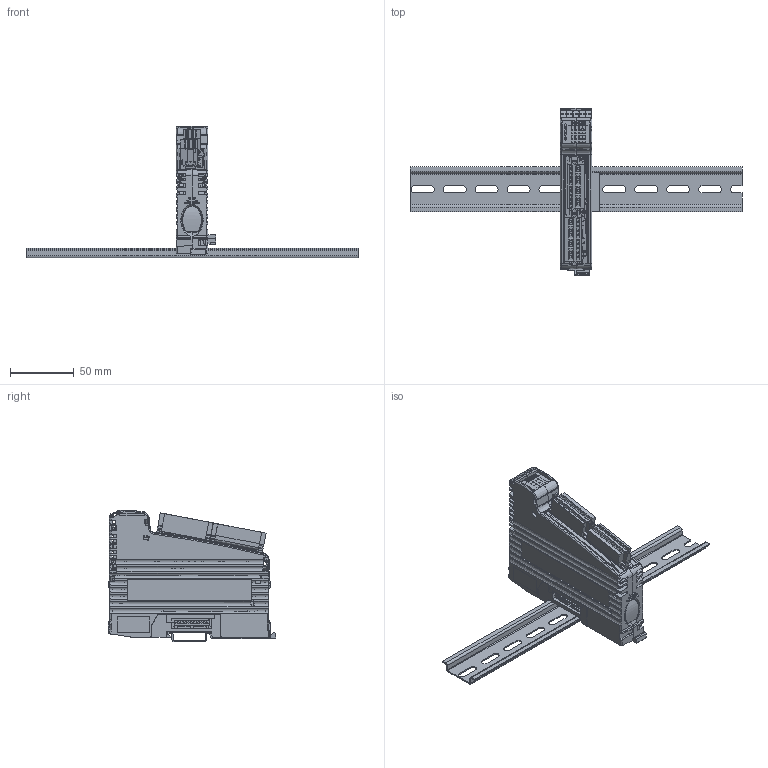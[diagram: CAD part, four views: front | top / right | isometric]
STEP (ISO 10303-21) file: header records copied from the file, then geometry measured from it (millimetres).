
FILE_DESCRIPTION(/* description */ ('FG'),/* implementation_level */ '2;1');
FILE_NAME(/* name */ 'FG_JX3-THI2-RTD_001_00',/* time_stamp */ '2016-06-24T10:22:36+02:00',/* author */ ('T. Busch'),/* organization */ ('Jetter AG'),/* preprocessor_version */ 'ST-DEVELOPER v16.7',/* originating_system */ 'DEX',/* authorisation */ $);
FILE_SCHEMA (('AUTOMOTIVE_DESIGN {1 0 10303 214 3 1 1}'));
Products named in the file (24): FG_JX3-THI2-RTD_001_00; GE_JX3-THI2-RTD_001_00; Sw-LI_JX3_001_00; PCBY_JX3-THI2-RTD_001_00; PCB_JX3-THI2-RTD_001_00; ST_10_E_WI_RM3_5; R_MMA0204_MELF; R_0603; BL_JX3-THI2-RTD_017_00; LL_JX3_003_02; Sw-RE_JX3_001_00; FO_JX3-THI2-RTD_001_00; Mk_JX3_001_06; BOY_JX3-BP_A1_001_01; Bo_JX3_001_01; De_JX3_001_00; PCBY_JX3-BP_001_03; PCB_JX3-BP_001_03; BU_20_D_GE_RM2_54_ISA; BU_10_E_WI_RM2_54; ST_10_E_WI_RM2_54; BU_10_E_BLZF_GE_RM3.5; Bc_Weidmüller_001; KT_Din_Schiene_Niedrig
Assembly tree (29 placements, depth 4):
  FG_JX3-THI2-RTD_001_00
    GE_JX3-THI2-RTD_001_00
      Sw-LI_JX3_001_00
      PCBY_JX3-THI2-RTD_001_00
        PCB_JX3-THI2-RTD_001_00
        ST_10_E_WI_RM3_5  x2
        R_MMA0204_MELF
        R_0603
      BL_JX3-THI2-RTD_017_00
      LL_JX3_003_02
      Sw-RE_JX3_001_00
      FO_JX3-THI2-RTD_001_00
      Mk_JX3_001_06
    BOY_JX3-BP_A1_001_01
      Bo_JX3_001_01
      De_JX3_001_00
      PCBY_JX3-BP_001_03
        PCB_JX3-BP_001_03
        BU_20_D_GE_RM2_54_ISA
        BU_10_E_WI_RM2_54
        ST_10_E_WI_RM2_54
    BU_10_E_BLZF_GE_RM3.5  x2
    Bc_Weidmüller_001  x5
    KT_Din_Schiene_Niedrig
Bounding box: 260 x 131.39 x 102.91 mm (x, y, z)
Volume: 1284258.7 mm3; surface area: 138094.4 mm2
Topology: 31 solids, 32 shells, 6731 faces, 18464 edges, 12030 vertices
Faces by surface type: plane 4961, cylinder 1108, cone 310, bspline 242, sphere 70, torus 40
Full cylindrical faces by diameter (mm): 0.1 x20, 0.6 x30, 0.75 x10, 0.9 x10, 1 x30, 1.3 x1, 1.4 x2, 1.567 x8, 1.8 x8, 2 x4, 2.1 x4, 2.5 x1, 2.8 x4, 2.9 x8
Entity records: 208710 total; most frequent: CARTESIAN_POINT 55634, ORIENTED_EDGE 28426, DIRECTION 26077, EDGE_CURVE 14213, LINE 10899, VECTOR 10899, VERTEX_POINT 9406, AXIS2_PLACEMENT_3D 7589
